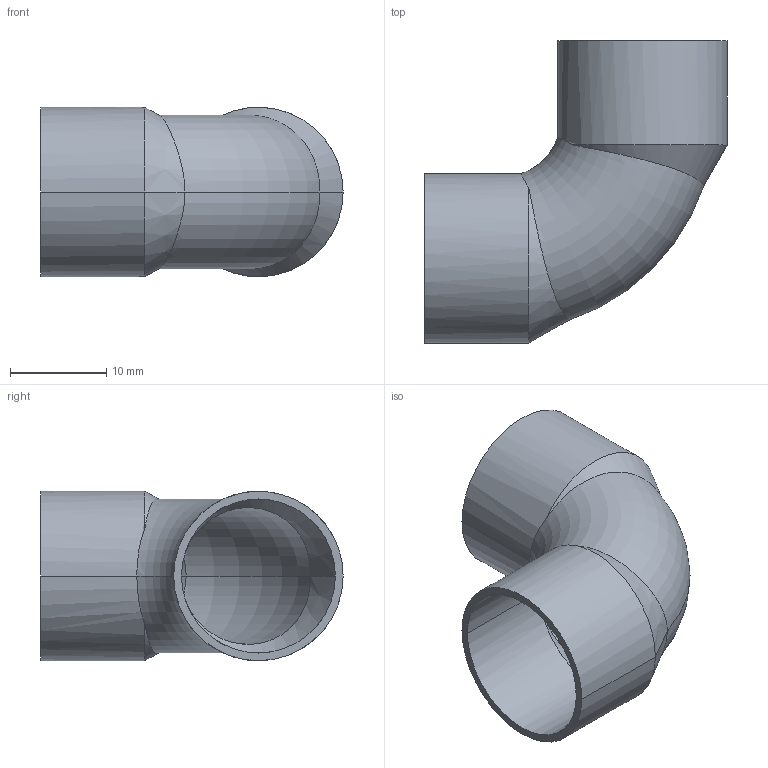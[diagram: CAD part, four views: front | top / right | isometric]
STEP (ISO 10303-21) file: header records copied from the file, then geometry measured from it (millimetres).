
FILE_DESCRIPTION((''),'2;1');
FILE_NAME('G:\SANHA-TERNAT\Technik\Deckel\UUU\Producttek\1509016\1509016(0).stp','2007-07-24T14:50:51',('vdvijverd'),(''),'Autodesk Inventor 8','Autodesk Inventor 8','');
FILE_SCHEMA(('AUTOMOTIVE_DESIGN { 1 0 10303 214 1 1 1 1 }'));
Length unit declared in the file: millimetre
Products named in the file (1): 1509016(0)
Bounding box: 31.4 x 31.4 x 17.6 mm (x, y, z)
Volume: 1632.7 mm3; surface area: 4007.1 mm2
Topology: 1 solids, 1 shells, 22 faces, 53 edges, 33 vertices
Faces by surface type: bspline 9, torus 4, cone 4, cylinder 4, plane 1
Entity records: 937 total; most frequent: CARTESIAN_POINT 452, ORIENTED_EDGE 106, DIRECTION 82, EDGE_CURVE 53, AXIS2_PLACEMENT_3D 35, VERTEX_POINT 33, EDGE_LOOP 24, FACE_OUTER_BOUND 22
